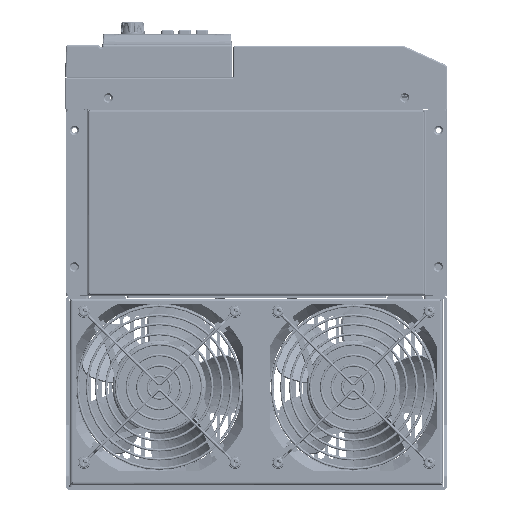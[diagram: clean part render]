
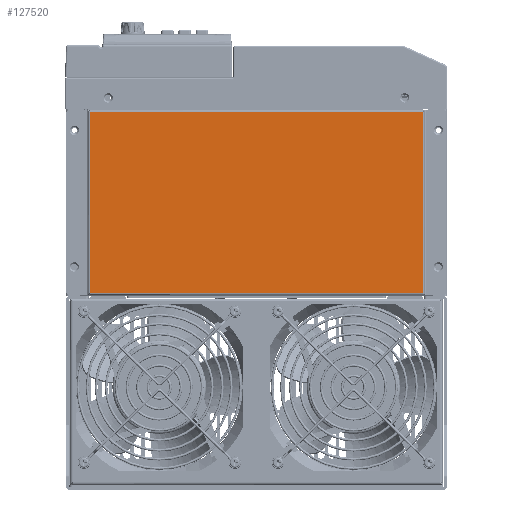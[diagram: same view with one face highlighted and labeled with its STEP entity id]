
A CAD part, front view. The second image highlights one B-rep face of the part: STEP entity #127520.
In plain terms, the highlighted planar face has unit normal (0, -1, 0).
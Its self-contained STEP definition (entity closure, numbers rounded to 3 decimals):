
#111128=DIRECTION('',(0.,0.,-1.));
#111129=VECTOR('',#111128,231.6);
#111130=CARTESIAN_POINT('',(-63.05,0.,115.8));
#111131=LINE('',#111130,#111129);
#111169=DIRECTION('',(-1.,0.,0.));
#111170=VECTOR('',#111169,126.1);
#111171=CARTESIAN_POINT('',(63.05,0.,115.8));
#111172=LINE('',#111171,#111170);
#114318=DIRECTION('',(1.,0.,0.));
#114319=VECTOR('',#114318,126.1);
#114320=CARTESIAN_POINT('',(-63.05,0.,-115.8));
#114321=LINE('',#114320,#114319);
#115493=DIRECTION('',(0.,0.,1.));
#115494=VECTOR('',#115493,231.6);
#115495=CARTESIAN_POINT('',(63.05,0.,-115.8));
#115496=LINE('',#115495,#115494);
#124161=CARTESIAN_POINT('',(-63.05,0.,115.8));
#124162=VERTEX_POINT('',#124161);
#124172=CARTESIAN_POINT('',(-63.05,0.,-115.8));
#124173=VERTEX_POINT('',#124172);
#124175=CARTESIAN_POINT('',(63.05,0.,115.8));
#124176=VERTEX_POINT('',#124175);
#124177=CARTESIAN_POINT('',(63.05,0.,-115.8));
#124178=VERTEX_POINT('',#124177);
#127506=CARTESIAN_POINT('',(-64.25,0.,117.));
#127507=DIRECTION('',(0.,-1.,0.));
#127508=DIRECTION('',(0.,0.,-1.));
#127509=AXIS2_PLACEMENT_3D('',#127506,#127507,#127508);
#127510=PLANE('',#127509);
#127511=ORIENTED_EDGE('',*,*,#127500,.F.);
#127513=ORIENTED_EDGE('',*,*,#127512,.F.);
#127515=ORIENTED_EDGE('',*,*,#127514,.F.);
#127517=ORIENTED_EDGE('',*,*,#127516,.F.);
#127518=EDGE_LOOP('',(#127511,#127513,#127515,#127517));
#127519=FACE_OUTER_BOUND('',#127518,.F.);
#127500=EDGE_CURVE('',#124162,#124173,#111131,.T.);
#127512=EDGE_CURVE('',#124176,#124162,#111172,.T.);
#127514=EDGE_CURVE('',#124178,#124176,#115496,.T.);
#127516=EDGE_CURVE('',#124173,#124178,#114321,.T.);
#127520=ADVANCED_FACE('',(#127519),#127510,.T.);
